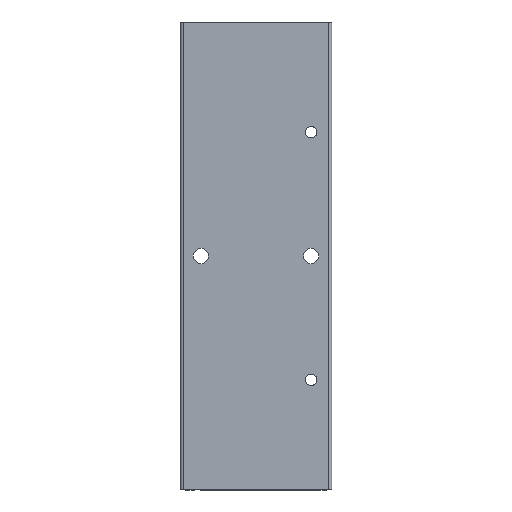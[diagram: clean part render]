
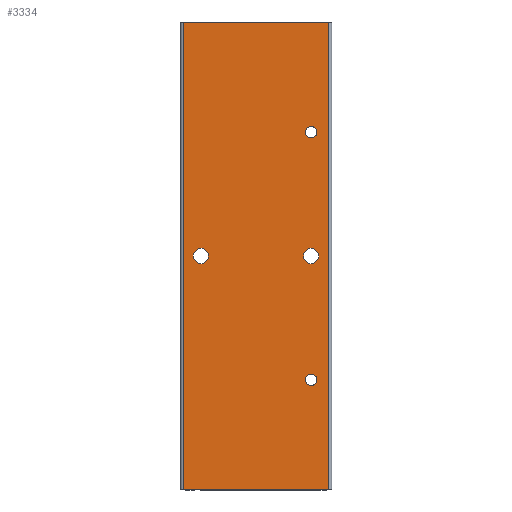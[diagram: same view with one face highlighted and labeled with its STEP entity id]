
A CAD part, front view. The second image highlights one B-rep face of the part: STEP entity #3334.
In plain terms, the highlighted planar face has unit normal (0, -1, 0).
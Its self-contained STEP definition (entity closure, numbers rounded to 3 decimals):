
#1229 = DIRECTION ( 'NONE',  ( -1., 0., 0. ) ) ;
#1230 = DIRECTION ( 'NONE',  ( 0., 1., 0. ) ) ;
#1231 = CARTESIAN_POINT ( 'NONE',  ( -25., -15., 85. ) ) ;
#1258 = FACE_BOUND ( 'NONE', #3115, .T. ) ;
#1316 = PLANE ( 'NONE',  #1428 ) ;
#1325 = FACE_BOUND ( 'NONE', #3123, .T. ) ;
#1326 = FACE_BOUND ( 'NONE', #3119, .T. ) ;
#1404 = FACE_OUTER_BOUND ( 'NONE', #3200, .T. ) ;
#1405 = FACE_BOUND ( 'NONE', #3129, .T. ) ;
#1428 = AXIS2_PLACEMENT_3D ( 'NONE', #1231, #1230, #1229 ) ;
#1456 = EDGE_CURVE ( 'NONE', #1549, #1550, #4298, .T. ) ;
#1474 = VERTEX_POINT ( 'NONE', #4549 ) ;
#1549 = VERTEX_POINT ( 'NONE', #4541 ) ;
#1550 = VERTEX_POINT ( 'NONE', #4540 ) ;
#1562 = EDGE_CURVE ( 'NONE', #1563, #1564, #4596, .T. ) ;
#1563 = VERTEX_POINT ( 'NONE', #4592 ) ;
#1564 = VERTEX_POINT ( 'NONE', #4591 ) ;
#1566 = EDGE_CURVE ( 'NONE', #1474, #1574, #4590, .T. ) ;
#1574 = VERTEX_POINT ( 'NONE', #4855 ) ;
#1817 = EDGE_CURVE ( 'NONE', #1818, #1819, #5124, .T. ) ;
#1818 = VERTEX_POINT ( 'NONE', #5119 ) ;
#1819 = VERTEX_POINT ( 'NONE', #5118 ) ;
#2869 = VERTEX_POINT ( 'NONE', #7393 ) ;
#2871 = EDGE_CURVE ( 'NONE', #2869, #2872, #7392, .T. ) ;
#2872 = VERTEX_POINT ( 'NONE', #7388 ) ;
#3115 = EDGE_LOOP ( 'NONE', ( #3116, #3118 ) ) ;
#3116 = ORIENTED_EDGE ( 'NONE', *, *, #3117, .T. ) ;
#3117 = EDGE_CURVE ( 'NONE', #1574, #1474, #7637, .T. ) ;
#3118 = ORIENTED_EDGE ( 'NONE', *, *, #1566, .T. ) ;
#3119 = EDGE_LOOP ( 'NONE', ( #3120, #3122 ) ) ;
#3120 = ORIENTED_EDGE ( 'NONE', *, *, #3121, .T. ) ;
#3121 = EDGE_CURVE ( 'NONE', #1550, #1549, #7632, .T. ) ;
#3122 = ORIENTED_EDGE ( 'NONE', *, *, #1456, .T. ) ;
#3123 = EDGE_LOOP ( 'NONE', ( #3126, #3128 ) ) ;
#3126 = ORIENTED_EDGE ( 'NONE', *, *, #3127, .T. ) ;
#3127 = EDGE_CURVE ( 'NONE', #1564, #1563, #7627, .T. ) ;
#3128 = ORIENTED_EDGE ( 'NONE', *, *, #1562, .T. ) ;
#3129 = EDGE_LOOP ( 'NONE', ( #3130, #3199 ) ) ;
#3130 = ORIENTED_EDGE ( 'NONE', *, *, #3131, .T. ) ;
#3131 = EDGE_CURVE ( 'NONE', #1819, #1818, #7622, .T. ) ;
#3174 = ORIENTED_EDGE ( 'NONE', *, *, #2871, .F. ) ;
#3175 = ORIENTED_EDGE ( 'NONE', *, *, #3176, .T. ) ;
#3176 = EDGE_CURVE ( 'NONE', #2869, #3202, #7751, .T. ) ;
#3177 = ORIENTED_EDGE ( 'NONE', *, *, #3201, .T. ) ;
#3178 = ORIENTED_EDGE ( 'NONE', *, *, #3179, .T. ) ;
#3179 = EDGE_CURVE ( 'NONE', #3205, #2872, #7688, .T. ) ;
#3199 = ORIENTED_EDGE ( 'NONE', *, *, #1817, .T. ) ;
#3200 = EDGE_LOOP ( 'NONE', ( #3174, #3175, #3177, #3178 ) ) ;
#3201 = EDGE_CURVE ( 'NONE', #3202, #3205, #7864, .T. ) ;
#3202 = VERTEX_POINT ( 'NONE', #7860 ) ;
#3205 = VERTEX_POINT ( 'NONE', #7854 ) ;
#3334 = ADVANCED_FACE ( 'NONE', ( #1258, #1326, #1325, #1405, #1404 ), #1316, .F. ) ;
#4294 = DIRECTION ( 'NONE',  ( -1., 0., 0. ) ) ;
#4295 = DIRECTION ( 'NONE',  ( 0., 1., 0. ) ) ;
#4296 = CARTESIAN_POINT ( 'NONE',  ( 22.5, -15., 45. ) ) ;
#4297 = AXIS2_PLACEMENT_3D ( 'NONE', #4296, #4295, #4294 ) ;
#4298 = CIRCLE ( 'NONE', #4297, 2.1 ) ;
#4540 = CARTESIAN_POINT ( 'NONE',  ( 22.5, -15., 47.1 ) ) ;
#4541 = CARTESIAN_POINT ( 'NONE',  ( 22.5, -15., 42.9 ) ) ;
#4549 = CARTESIAN_POINT ( 'NONE',  ( 22.5, -15., -47.1 ) ) ;
#4586 = DIRECTION ( 'NONE',  ( -1., 0., 0. ) ) ;
#4587 = DIRECTION ( 'NONE',  ( 0., 1., 0. ) ) ;
#4588 = CARTESIAN_POINT ( 'NONE',  ( 22.5, -15., -45. ) ) ;
#4589 = AXIS2_PLACEMENT_3D ( 'NONE', #4588, #4587, #4586 ) ;
#4590 = CIRCLE ( 'NONE', #4589, 2.1 ) ;
#4591 = CARTESIAN_POINT ( 'NONE',  ( 22.5, -15., 2.75 ) ) ;
#4592 = CARTESIAN_POINT ( 'NONE',  ( 22.5, -15., -2.75 ) ) ;
#4593 = DIRECTION ( 'NONE',  ( 0., 0., 1. ) ) ;
#4594 = DIRECTION ( 'NONE',  ( 0., 1., 0. ) ) ;
#4595 = AXIS2_PLACEMENT_3D ( 'NONE', #4600, #4594, #4593 ) ;
#4596 = CIRCLE ( 'NONE', #4595, 2.75 ) ;
#4600 = CARTESIAN_POINT ( 'NONE',  ( 22.5, -15., 0. ) ) ;
#4855 = CARTESIAN_POINT ( 'NONE',  ( 22.5, -15., -42.9 ) ) ;
#5118 = CARTESIAN_POINT ( 'NONE',  ( -17.5, -15., 2.75 ) ) ;
#5119 = CARTESIAN_POINT ( 'NONE',  ( -17.5, -15., -2.75 ) ) ;
#5120 = DIRECTION ( 'NONE',  ( 0., 0., 1. ) ) ;
#5121 = DIRECTION ( 'NONE',  ( 0., 1., 0. ) ) ;
#5122 = CARTESIAN_POINT ( 'NONE',  ( -17.5, -15., 0. ) ) ;
#5123 = AXIS2_PLACEMENT_3D ( 'NONE', #5122, #5121, #5120 ) ;
#5124 = CIRCLE ( 'NONE', #5123, 2.75 ) ;
#7388 = CARTESIAN_POINT ( 'NONE',  ( 29., -15., 85. ) ) ;
#7389 = DIRECTION ( 'NONE',  ( 1., 0., 0. ) ) ;
#7390 = VECTOR ( 'NONE', #7389, 1000. ) ;
#7391 = CARTESIAN_POINT ( 'NONE',  ( -25., -15., 85. ) ) ;
#7392 = LINE ( 'NONE', #7391, #7390 ) ;
#7393 = CARTESIAN_POINT ( 'NONE',  ( -24., -15., 85. ) ) ;
#7618 = DIRECTION ( 'NONE',  ( 0., 0., 1. ) ) ;
#7619 = DIRECTION ( 'NONE',  ( 0., 1., 0. ) ) ;
#7620 = CARTESIAN_POINT ( 'NONE',  ( -17.5, -15., 0. ) ) ;
#7621 = AXIS2_PLACEMENT_3D ( 'NONE', #7620, #7619, #7618 ) ;
#7622 = CIRCLE ( 'NONE', #7621, 2.75 ) ;
#7623 = DIRECTION ( 'NONE',  ( 0., 0., 1. ) ) ;
#7624 = DIRECTION ( 'NONE',  ( 0., 1., 0. ) ) ;
#7625 = CARTESIAN_POINT ( 'NONE',  ( 22.5, -15., 0. ) ) ;
#7626 = AXIS2_PLACEMENT_3D ( 'NONE', #7625, #7624, #7623 ) ;
#7627 = CIRCLE ( 'NONE', #7626, 2.75 ) ;
#7628 = DIRECTION ( 'NONE',  ( -1., 0., 0. ) ) ;
#7629 = DIRECTION ( 'NONE',  ( 0., 1., 0. ) ) ;
#7630 = CARTESIAN_POINT ( 'NONE',  ( 22.5, -15., 45. ) ) ;
#7631 = AXIS2_PLACEMENT_3D ( 'NONE', #7630, #7629, #7628 ) ;
#7632 = CIRCLE ( 'NONE', #7631, 2.1 ) ;
#7633 = DIRECTION ( 'NONE',  ( -1., 0., 0. ) ) ;
#7634 = DIRECTION ( 'NONE',  ( 0., 1., 0. ) ) ;
#7635 = CARTESIAN_POINT ( 'NONE',  ( 22.5, -15., -45. ) ) ;
#7636 = AXIS2_PLACEMENT_3D ( 'NONE', #7635, #7634, #7633 ) ;
#7637 = CIRCLE ( 'NONE', #7636, 2.1 ) ;
#7685 = DIRECTION ( 'NONE',  ( 0., 0., 1. ) ) ;
#7686 = VECTOR ( 'NONE', #7685, 1000. ) ;
#7687 = CARTESIAN_POINT ( 'NONE',  ( 29., -15., 85. ) ) ;
#7688 = LINE ( 'NONE', #7687, #7686 ) ;
#7748 = DIRECTION ( 'NONE',  ( 0., 0., -1. ) ) ;
#7749 = VECTOR ( 'NONE', #7748, 1000. ) ;
#7750 = CARTESIAN_POINT ( 'NONE',  ( -24., -15., 85. ) ) ;
#7751 = LINE ( 'NONE', #7750, #7749 ) ;
#7854 = CARTESIAN_POINT ( 'NONE',  ( 29., -15., -85. ) ) ;
#7860 = CARTESIAN_POINT ( 'NONE',  ( -24., -15., -85. ) ) ;
#7861 = DIRECTION ( 'NONE',  ( 1., 0., 0. ) ) ;
#7862 = VECTOR ( 'NONE', #7861, 1000. ) ;
#7863 = CARTESIAN_POINT ( 'NONE',  ( -25., -15., -85. ) ) ;
#7864 = LINE ( 'NONE', #7863, #7862 ) ;
